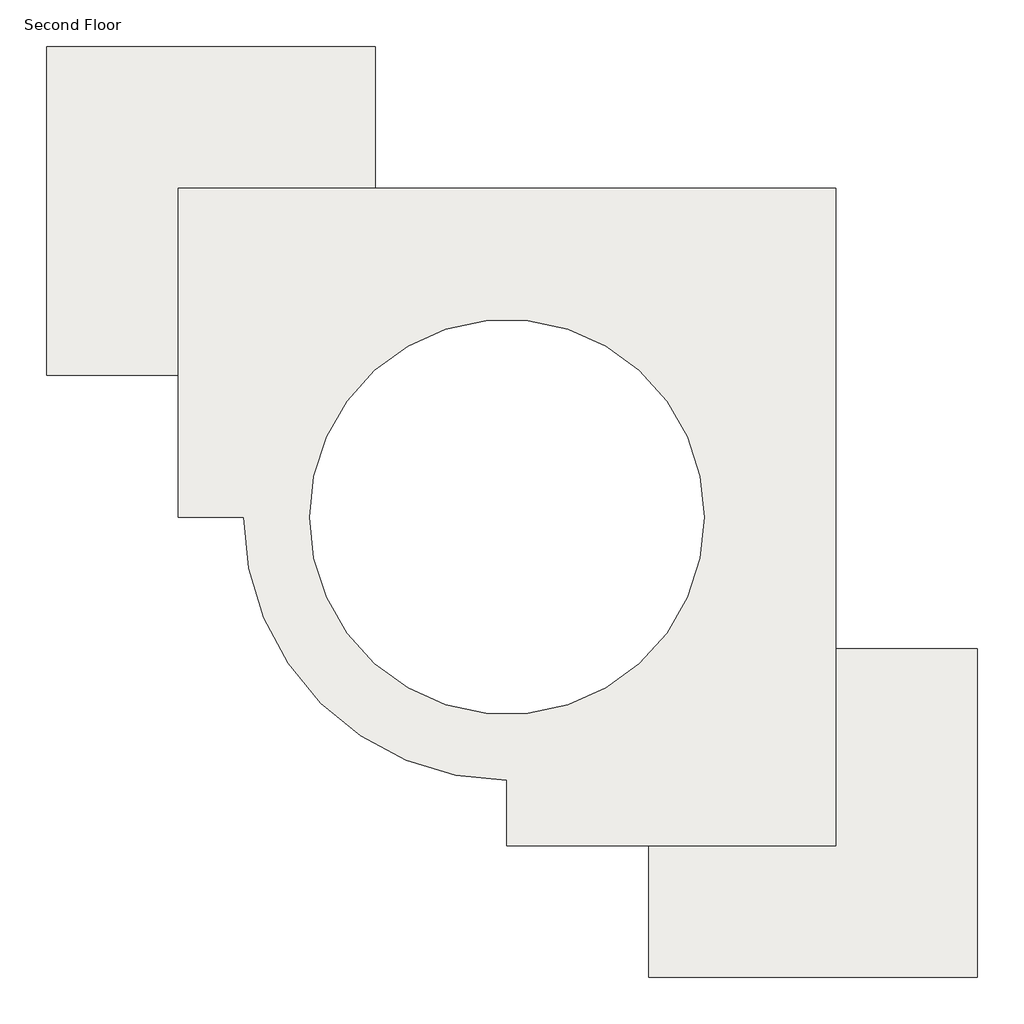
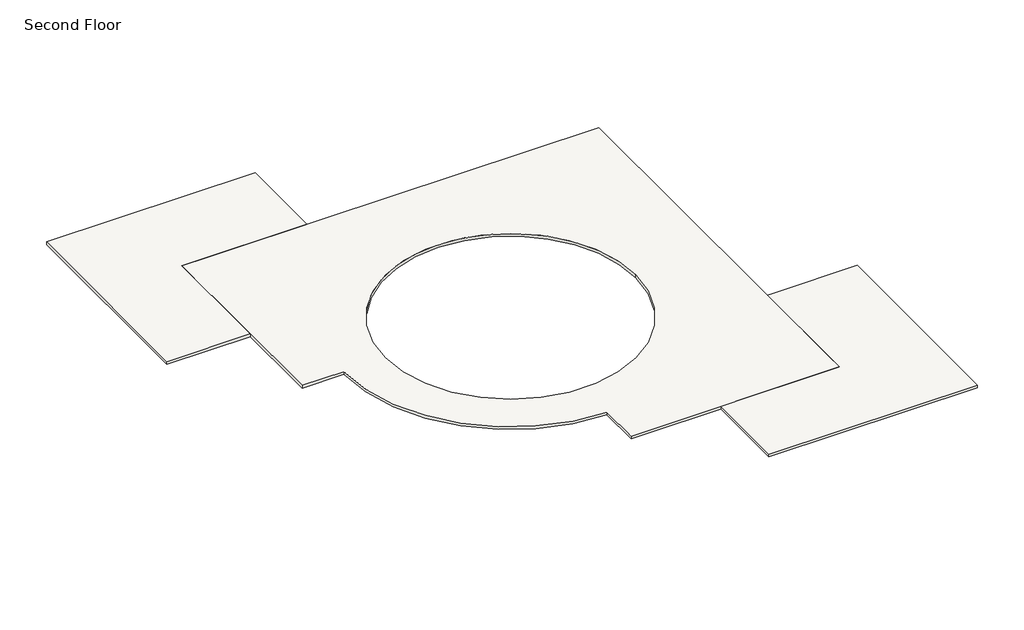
# One storey: 2 slabs.
"""IFC4 building model written with IfcOpenShell, lengths in millimetres."""

import ifcopenshell
import ifcopenshell.guid

model = None  # the IFC model being written
_history = None  # IfcOwnerHistory: only IFC2X3 demands one
_inside = {}  # id of a spatial element -> (the spatial element, [elements in it])
_under = {}  # id of a project, library or spatial element -> (it, [spatial elements below it])
_declared = {}  # id of a project -> (the project, [libraries it declares])
_typed = {}  # id of a type object -> (the type object, [elements of that type])
_made_of = {}  # id of a material, layer set ... -> (it, [elements and type objects made of it])


def new_model(schema):
    """Start an empty IFC model of exactly this schema.

    Asked for "IFC4X3", IfcOpenShell would pick the latest addendum, in which some entities
    have other attributes; the version numbers below select the first issue.
    IFC2X3 requires an IfcOwnerHistory on every rooted entity: one is made here for all.
    """
    global model, _history
    if schema == "IFC4X3":
        model = ifcopenshell.file(schema_version=(4, 3, 0, 0))
    else:
        model = ifcopenshell.file(schema=schema)
    _inside.clear()
    _under.clear()
    _declared.clear()
    _typed.clear()
    _made_of.clear()
    _history = None
    if model.schema == "IFC2X3":
        org = make("IfcOrganization", Name="unknown")
        user = make(
            "IfcPersonAndOrganization",
            ThePerson=make("IfcPerson", FamilyName="unknown"),
            TheOrganization=org,
        )
        app = make(
            "IfcApplication",
            ApplicationDeveloper=org,
            Version="unknown",
            ApplicationFullName="unknown",
            ApplicationIdentifier="unknown",
        )
        _history = make(
            "IfcOwnerHistory",
            OwningUser=user,
            OwningApplication=app,
            ChangeAction="ADDED",
            CreationDate=0,
        )
    return model


def make(cls, **values):
    """One entity of the class cls with the attributes given. An attribute that is None is left unset."""
    return model.create_entity(
        cls, **{name: value for name, value in values.items() if value is not None}
    )


def rooted(cls, **values):
    """An entity with a GlobalId (a new one), such as an element, a storey or a relation."""
    return make(cls, GlobalId=ifcopenshell.guid.new(), OwnerHistory=_history, **values)


def si_unit(unit_type, name, prefix=None):
    """IfcSIUnit, for example si_unit("LENGTHUNIT", "METRE", prefix="MILLI")."""
    return make("IfcSIUnit", UnitType=unit_type, Prefix=prefix, Name=name)


def assignment(units):
    """IfcUnitAssignment: the units of a project."""
    return None if units is None else make("IfcUnitAssignment", Units=units)


def point(xyz):
    """IfcCartesianPoint."""
    return None if xyz is None else make("IfcCartesianPoint", Coordinates=xyz)


def direction(xyz):
    """IfcDirection."""
    return None if xyz is None else make("IfcDirection", DirectionRatios=xyz)


def frame(location, z_axis=None, x_axis=None):
    """IfcAxis2Placement3D, a coordinate frame: its origin and axes. An axis left out is left unset."""
    return make(
        "IfcAxis2Placement3D",
        Location=point(location),
        Axis=direction(z_axis),
        RefDirection=direction(x_axis),
    )


def frame_2d(location, x_axis=None):
    """IfcAxis2Placement2D, a coordinate frame in the plane: its origin and x axis."""
    return make(
        "IfcAxis2Placement2D", Location=point(location), RefDirection=direction(x_axis)
    )


def origin():
    """The frame at (0, 0, 0) with its axes left unset."""
    return frame((0.0, 0.0, 0.0))


def place(relative_to, where):
    """IfcLocalPlacement: puts the frame where relative to a parent placement (None: the world)."""
    return make(
        "IfcLocalPlacement", PlacementRelTo=relative_to, RelativePlacement=where
    )


def context(
    kind, dimensions, precision=None, world=None, true_north=None, identifier=None
):
    """IfcGeometricRepresentationContext, for example the 3D "Model" context."""
    return make(
        "IfcGeometricRepresentationContext",
        ContextIdentifier=identifier,
        ContextType=kind,
        CoordinateSpaceDimension=dimensions,
        Precision=precision,
        WorldCoordinateSystem=world,
        TrueNorth=true_north,
    )


def project(units=None, contexts=None):
    """IfcProject with its units and contexts."""
    return rooted(
        "IfcProject",
        Name="project",
        RepresentationContexts=contexts,
        UnitsInContext=assignment(units),
    )


def spatial(cls, under=None, at=None, **own):
    """A site, building, storey or space (cls), placed at a placement, below another one or the project."""
    s = rooted(cls, ObjectPlacement=at, **own)
    if under is not None:
        _under.setdefault(under.id(), (under, []))[1].append(s)
    return s


def polyline(points):
    """IfcPolyline through the points."""
    return make("IfcPolyline", Points=[point(p) for p in points])


def circle_curve(where, radius):
    """IfcCircle in the frame where."""
    return make("IfcCircle", Position=where, Radius=radius)


def trimmed(basis, trim1, trim2, sense, master):
    """IfcTrimmedCurve: the piece of a basis curve between two trims."""
    return make(
        "IfcTrimmedCurve",
        BasisCurve=basis,
        Trim1=trim1,
        Trim2=trim2,
        SenseAgreement=sense,
        MasterRepresentation=master,
    )


def segment(curve, same_sense, transition):
    """IfcCompositeCurveSegment."""
    return make(
        "IfcCompositeCurveSegment",
        Transition=transition,
        SameSense=same_sense,
        ParentCurve=curve,
    )


def composite_curve(segments, self_intersect=None):
    """IfcCompositeCurve: segments joined end to end."""
    return make("IfcCompositeCurve", Segments=segments, SelfIntersect=self_intersect)


def outline(outer, holes=None, kind="AREA"):
    """IfcArbitraryClosedProfileDef: a profile drawn as a closed curve; with holes, ...WithVoids."""
    if holes is None:
        return make("IfcArbitraryClosedProfileDef", ProfileType=kind, OuterCurve=outer)
    return make(
        "IfcArbitraryProfileDefWithVoids",
        ProfileType=kind,
        OuterCurve=outer,
        InnerCurves=holes,
    )


def extrude(swept, where, along, depth):
    """IfcExtrudedAreaSolid: the profile swept, set in the frame where, extruded along a direction by depth."""
    return make(
        "IfcExtrudedAreaSolid",
        SweptArea=swept,
        Position=where,
        ExtrudedDirection=direction(along),
        Depth=depth,
    )


def shape(context_of_items, identifier, shape_type, items):
    """IfcShapeRepresentation: the items that make up one representation, for example the "Body"."""
    return make(
        "IfcShapeRepresentation",
        ContextOfItems=context_of_items,
        RepresentationIdentifier=identifier,
        RepresentationType=shape_type,
        Items=items,
    )


def made_of(thing, what):
    """Note that an element or type object is made of a material, layer set ...; save() writes the relation."""
    if what is not None:
        _made_of.setdefault(what.id(), (what, []))[1].append(thing)
    return thing


def element(
    cls,
    number,
    at=None,
    inside=None,
    cuts=None,
    type_object=None,
    material=None,
    context=None,
    identifier="Body",
    shape_type=None,
    held_by="IfcProductDefinitionShape",
    body=None,
    shapes=None,
    **own,
):
    """One element of the class cls, such as IfcWall. Its Tag is "e" and its number.

    at: its placement. inside: the storey or other place that contains it. cuts: it is an
    opening in that element (IfcRelVoidsElement). A single representation is given by context,
    identifier, shape_type and body (its items); several are given by shapes. held_by: the class
    of the entity that holds the representations. save() writes the other relations.
    """
    e = rooted(cls, Tag="e%d" % number, ObjectPlacement=at, **own)
    if body is not None:
        shapes = [shape(context, identifier, shape_type, body)]
    if shapes is not None:
        e.Representation = make(held_by, Representations=shapes)
    if inside is not None:
        _inside.setdefault(inside.id(), (inside, []))[1].append(e)
    if cuts is not None:
        rooted(
            "IfcRelVoidsElement", RelatingBuildingElement=cuts, RelatedOpeningElement=e
        )
    if type_object is not None:
        _typed.setdefault(type_object.id(), (type_object, []))[1].append(e)
    return made_of(e, material)


def aggregate(whole, parts):
    """IfcRelAggregates: a whole, such as a stair, and the parts it consists of."""
    return rooted("IfcRelAggregates", RelatingObject=whole, RelatedObjects=parts)


def save(model, path):
    """Write the relations noted so far, then the file.

    IfcRelAggregates (storeys below a building ...), IfcRelContainedInSpatialStructure (elements
    in a storey), IfcRelDefinesByType, IfcRelAssociatesMaterial and IfcRelDeclares: one each for
    every whole, place, type object, material and project.
    """
    for whole, parts in _under.values():
        aggregate(whole, parts)
    for where, things in _inside.values():
        rooted(
            "IfcRelContainedInSpatialStructure",
            RelatedElements=things,
            RelatingStructure=where,
        )
    for kind, things in _typed.values():
        rooted("IfcRelDefinesByType", RelatedObjects=things, RelatingType=kind)
    for what, things in _made_of.values():
        rooted("IfcRelAssociatesMaterial", RelatedObjects=things, RelatingMaterial=what)
    for by, libraries in _declared.values():
        rooted("IfcRelDeclares", RelatingContext=by, RelatedDefinitions=libraries)
    model.write(path)


model = new_model("IFC4")

# Units and contexts
model_context = context("Model", 3, world=origin())
ifc_project = project(units=[si_unit("LENGTHUNIT", "METRE", prefix="MILLI")], contexts=[model_context])

# Site, building, storey
site = spatial("IfcSite", under=ifc_project)
building = spatial("IfcBuilding", under=site)
storey = spatial("IfcBuildingStorey", under=building, Name="Second Floor", Elevation=3048.0)

# Slabs
placement = place(None, origin())
element("IfcSlab", 1, ObjectType="LW Concrete on Metal Deck", at=placement, inside=storey, context=model_context, shape_type="SweptSolid", body=[
    extrude(outline(composite_curve([segment(polyline([(4920.7859619, 5010.3465511), (4920.7859619, -10229.6534489), (-2699.2140381, -10229.6534489), (-2699.2140381, -8705.6534489)]), True, "CONTINUOUS"), segment(trimmed(circle_curve(frame_2d((-2699.2140381, -2609.6534489)), 6096.0), [point((-2699.2140381, -8705.6534489))], [point((-8795.2140381, -2609.6534489))], False, "CARTESIAN"), True, "CONTINUOUS"), segment(polyline([(-8795.2140381, -2609.6534489), (-10319.2140381, -2609.6534489), (-10319.2140381, 5010.3465511), (4920.7859619, 5010.3465511)]), True, "CONTINUOUS")], self_intersect=False), holes=[composite_curve([segment(trimmed(circle_curve(frame_2d((-2699.2140381, -2609.6534489)), 4572.0), [point((1872.7859619, -2609.6534489))], [point((-7271.2140381, -2609.6534489))], True, "CARTESIAN"), True, "CONTINUOUS"), segment(trimmed(circle_curve(frame_2d((-2699.2140381, -2609.6534489)), 4572.0), [point((-7271.2140381, -2609.6534489))], [point((1872.7859619, -2609.6534489))], True, "CARTESIAN"), True, "CONTINUOUS")], self_intersect=False)]), frame((0.0, 0.0, 2943.225), z_axis=(0.0, 0.0, 1.0), x_axis=(1.0, 0.0, 0.0)), (0.0, 0.0, 1.0), 104.775),
])
element("IfcSlab", 2, ObjectType="LW Concrete on Metal Deck", at=placement, inside=storey, context=model_context, shape_type="SweptSolid", body=[
    extrude(outline(polyline([(-13367.2140381, 672.984638), (-13367.2140381, 8292.984638), (-5747.2140381, 8292.984638), (-5747.2140381, 5244.984638), (-5747.2140381, 5010.3465511), (-10319.2140381, 5010.3465511), (-10319.2140381, 672.984638), (-13367.2140381, 672.984638)])), frame((0.0, 0.0, 2943.225), z_axis=(0.0, 0.0, 1.0), x_axis=(1.0, 0.0, 0.0)), (0.0, 0.0, 1.0), 104.775),
    extrude(outline(polyline([(583.4240488, -13277.6534489), (583.4240488, -10229.6534489), (4920.7859619, -10229.6534489), (4920.7859619, -5657.6534489), (5155.4240488, -5657.6534489), (8203.4240488, -5657.6534489), (8203.4240488, -13277.6534489), (583.4240488, -13277.6534489)])), frame((0.0, 0.0, 2943.225), z_axis=(0.0, 0.0, 1.0), x_axis=(1.0, 0.0, 0.0)), (0.0, 0.0, 1.0), 104.775),
])

save(model, "model.ifc")
